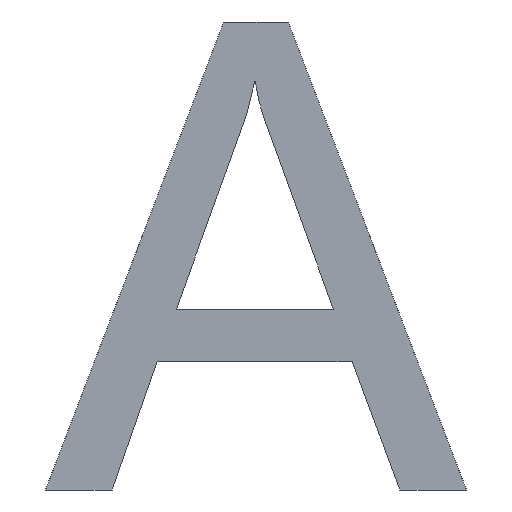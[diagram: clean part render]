
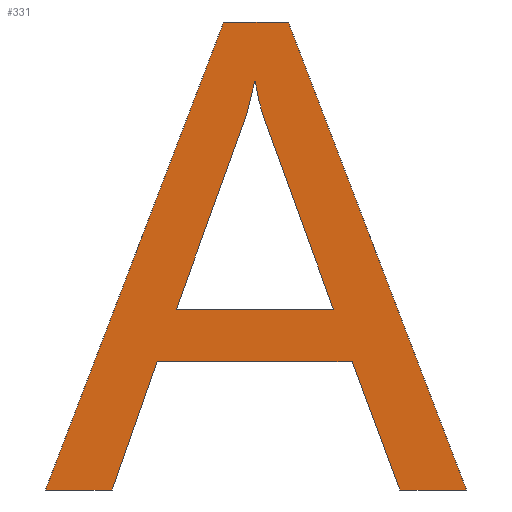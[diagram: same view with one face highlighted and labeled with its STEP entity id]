
A CAD part, front view. The second image highlights one B-rep face of the part: STEP entity #331.
In plain terms, the highlighted planar face has unit normal (0, -1, 0).
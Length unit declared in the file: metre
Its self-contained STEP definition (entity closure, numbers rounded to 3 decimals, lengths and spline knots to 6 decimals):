
#15=B_SPLINE_CURVE_WITH_KNOTS('',3,(#567,#568,#569,#570),.UNSPECIFIED.,
 .F.,.F.,(4,4),(1.,2.),.UNSPECIFIED.);
#86=ORIENTED_EDGE('',*,*,#117,.F.);
#87=ORIENTED_EDGE('',*,*,#102,.F.);
#88=ORIENTED_EDGE('',*,*,#106,.F.);
#89=ORIENTED_EDGE('',*,*,#109,.F.);
#90=ORIENTED_EDGE('',*,*,#112,.F.);
#91=ORIENTED_EDGE('',*,*,#115,.F.);
#92=ORIENTED_EDGE('',*,*,#141,.T.);
#93=ORIENTED_EDGE('',*,*,#138,.T.);
#94=ORIENTED_EDGE('',*,*,#135,.T.);
#95=ORIENTED_EDGE('',*,*,#132,.T.);
#96=ORIENTED_EDGE('',*,*,#129,.T.);
#97=ORIENTED_EDGE('',*,*,#126,.T.);
#98=ORIENTED_EDGE('',*,*,#123,.T.);
#99=ORIENTED_EDGE('',*,*,#120,.T.);
#102=EDGE_CURVE('',#144,#145,#171,.T.);
#106=EDGE_CURVE('',#147,#144,#175,.F.);
#109=EDGE_CURVE('',#149,#147,#178,.T.);
#112=EDGE_CURVE('',#151,#149,#15,.T.);
#115=EDGE_CURVE('',#153,#151,#182,.T.);
#117=EDGE_CURVE('',#145,#153,#184,.T.);
#120=EDGE_CURVE('',#157,#156,#187,.T.);
#123=EDGE_CURVE('',#159,#157,#190,.T.);
#126=EDGE_CURVE('',#161,#159,#193,.T.);
#129=EDGE_CURVE('',#163,#161,#196,.T.);
#132=EDGE_CURVE('',#165,#163,#199,.T.);
#135=EDGE_CURVE('',#167,#165,#202,.T.);
#138=EDGE_CURVE('',#169,#167,#205,.T.);
#141=EDGE_CURVE('',#156,#169,#208,.T.);
#144=VERTEX_POINT('',#536);
#145=VERTEX_POINT('',#538);
#147=VERTEX_POINT('',#544);
#149=VERTEX_POINT('',#550);
#151=VERTEX_POINT('',#566);
#153=VERTEX_POINT('',#575);
#156=VERTEX_POINT('',#585);
#157=VERTEX_POINT('',#587);
#159=VERTEX_POINT('',#593);
#161=VERTEX_POINT('',#599);
#163=VERTEX_POINT('',#605);
#165=VERTEX_POINT('',#611);
#167=VERTEX_POINT('',#617);
#169=VERTEX_POINT('',#623);
#171=LINE('',#537,#210);
#175=LINE('',#545,#214);
#178=LINE('',#551,#217);
#182=LINE('',#576,#221);
#184=LINE('',#579,#223);
#187=LINE('',#586,#226);
#190=LINE('',#592,#229);
#193=LINE('',#598,#232);
#196=LINE('',#604,#235);
#199=LINE('',#610,#238);
#202=LINE('',#616,#241);
#205=LINE('',#622,#244);
#208=LINE('',#627,#247);
#210=VECTOR('',#461,1.);
#214=VECTOR('',#467,1.);
#217=VECTOR('',#472,1.);
#221=VECTOR('',#478,1.);
#223=VECTOR('',#482,1.);
#226=VECTOR('',#487,1.);
#229=VECTOR('',#492,1.);
#232=VECTOR('',#497,1.);
#235=VECTOR('',#502,1.);
#238=VECTOR('',#507,1.);
#241=VECTOR('',#512,1.);
#244=VECTOR('',#517,1.);
#247=VECTOR('',#522,1.);
#264=EDGE_LOOP('',(#86,#87,#88,#89,#90,#91));
#265=EDGE_LOOP('',(#92,#93,#94,#95,#96,#97,#98,#99));
#282=FACE_BOUND('',#264,.T.);
#283=FACE_BOUND('',#265,.T.);
#298=PLANE('',#455);
#331=ADVANCED_FACE('',(#282,#283),#298,.F.);
#455=AXIS2_PLACEMENT_3D('',#629,#525,#526);
#461=DIRECTION('',(-0.339,0.,-0.941));
#467=DIRECTION('',(0.226,0.,0.974));
#472=DIRECTION('',(-1.,0.,0.));
#478=DIRECTION('',(-0.342,0.,0.94));
#482=DIRECTION('',(1.,0.,0.));
#487=DIRECTION('',(1.,0.,0.));
#492=DIRECTION('',(0.349,0.,-0.937));
#497=DIRECTION('',(1.,0.,0.));
#502=DIRECTION('',(0.332,0.,0.943));
#507=DIRECTION('',(1.,0.,0.));
#512=DIRECTION('',(-0.356,0.,-0.935));
#517=DIRECTION('',(-1.,0.,0.));
#522=DIRECTION('',(-0.356,0.,0.935));
#525=DIRECTION('',(0.,1.,0.));
#526=DIRECTION('',(0.,0.,-1.));
#536=CARTESIAN_POINT('',(-0.144569,-0.023259,0.012605));
#537=CARTESIAN_POINT('',(-0.144569,-0.023259,0.012605));
#538=CARTESIAN_POINT('',(-0.144598,-0.023259,0.012524));
#544=CARTESIAN_POINT('',(-0.144566,-0.023259,0.012619));
#545=CARTESIAN_POINT('',(-0.144567,-0.023259,0.012611));
#550=CARTESIAN_POINT('',(-0.144565,-0.023259,0.012619));
#551=CARTESIAN_POINT('',(-0.144565,-0.023259,0.012619));
#566=CARTESIAN_POINT('',(-0.144562,-0.023259,0.012605));
#567=CARTESIAN_POINT('',(-0.144562,-0.023259,0.012605));
#568=CARTESIAN_POINT('',(-0.144563,-0.023259,0.012608));
#569=CARTESIAN_POINT('',(-0.144564,-0.023259,0.012613));
#570=CARTESIAN_POINT('',(-0.144565,-0.023259,0.012619));
#575=CARTESIAN_POINT('',(-0.144533,-0.023259,0.012524));
#576=CARTESIAN_POINT('',(-0.144533,-0.023259,0.012524));
#579=CARTESIAN_POINT('',(-0.144598,-0.023259,0.012524));
#585=CARTESIAN_POINT('',(-0.144477,-0.023259,0.012449));
#586=CARTESIAN_POINT('',(-0.144477,-0.023259,0.012449));
#587=CARTESIAN_POINT('',(-0.144505,-0.023259,0.012449));
#592=CARTESIAN_POINT('',(-0.144505,-0.023259,0.012449));
#593=CARTESIAN_POINT('',(-0.144525,-0.023259,0.012502));
#598=CARTESIAN_POINT('',(-0.144525,-0.023259,0.012502));
#599=CARTESIAN_POINT('',(-0.144606,-0.023259,0.012502));
#604=CARTESIAN_POINT('',(-0.144606,-0.023259,0.012502));
#605=CARTESIAN_POINT('',(-0.144625,-0.023259,0.012449));
#610=CARTESIAN_POINT('',(-0.144625,-0.023259,0.012449));
#611=CARTESIAN_POINT('',(-0.144653,-0.023259,0.012449));
#616=CARTESIAN_POINT('',(-0.144653,-0.023259,0.012449));
#617=CARTESIAN_POINT('',(-0.144579,-0.023259,0.012644));
#622=CARTESIAN_POINT('',(-0.144579,-0.023259,0.012644));
#623=CARTESIAN_POINT('',(-0.144552,-0.023259,0.012644));
#627=CARTESIAN_POINT('',(-0.144552,-0.023259,0.012644));
#629=CARTESIAN_POINT('',(-0.142414,-0.023259,0.01));
